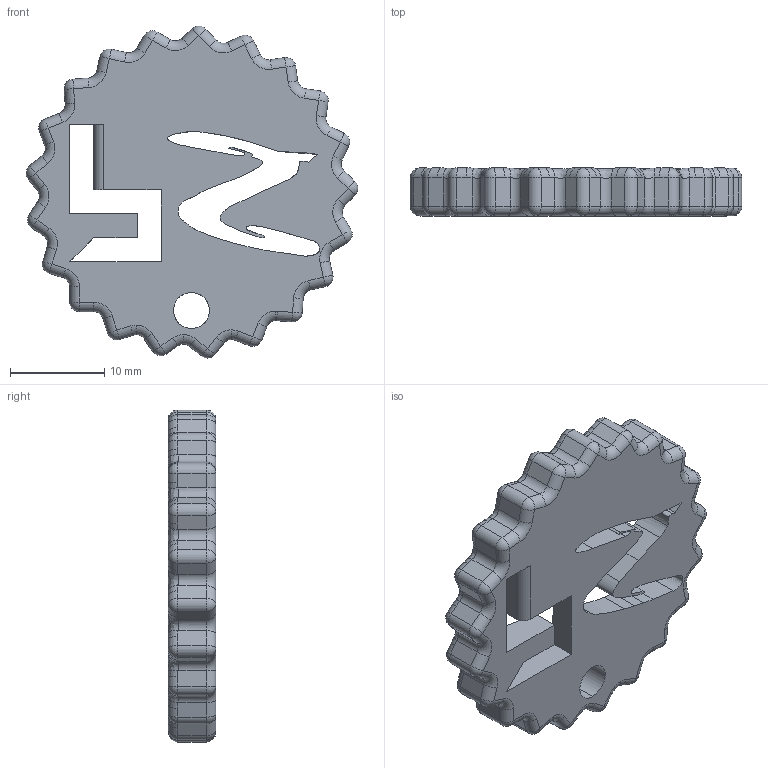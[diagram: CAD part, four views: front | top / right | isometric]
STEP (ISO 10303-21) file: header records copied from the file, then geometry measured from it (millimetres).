
FILE_DESCRIPTION (( 'STEP AP214' ), '1' );
FILE_NAME ('MyCoinKeyChain.STEP', '2025-10-13T13:20:50', ( '' ), ( '' ), 'SwSTEP 2.0', 'SolidWorks 2024', '' );
FILE_SCHEMA (( 'AUTOMOTIVE_DESIGN' ));
Length unit declared in the file: inch
Products named in the file (1): MyCoinKeyChain
Bounding box: 35.15 x 5.08 x 35.18 mm (x, y, z)
Volume: 2983.5 mm3; surface area: 2574.4 mm2
Topology: 1 solids, 1 shells, 392 faces, 963 edges, 528 vertices
Faces by surface type: cylinder 138, bspline 102, plane 78, sphere 47, torus 27
Entity records: 13723 total; most frequent: CARTESIAN_POINT 5336, ORIENTED_EDGE 1842, DIRECTION 1645, EDGE_CURVE 921, AXIS2_PLACEMENT_3D 657, VERTEX_POINT 528, EDGE_LOOP 395, FACE_OUTER_BOUND 392
